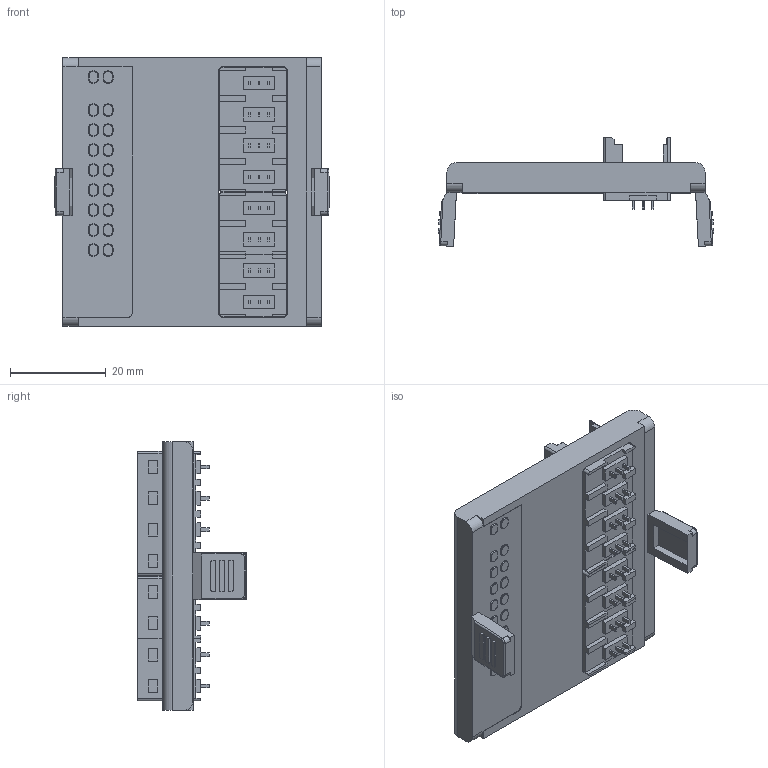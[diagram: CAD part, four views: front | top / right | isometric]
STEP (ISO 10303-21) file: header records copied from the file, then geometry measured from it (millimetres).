
FILE_DESCRIPTION(/* description */ (''),/* implementation_level */ '2;1');
FILE_NAME(/* name */ 'RS-ECON-单排IO.stp',/* time_stamp */ '2025-10-29T09:41:12+08:00',/* author */ (''),/* organization */ (''),/* preprocessor_version */ 'ST-DEVELOPER v16',/* originating_system */ 'SIEMENS PLM Software NX 10.0',/* authorisation */ '');
FILE_SCHEMA (('AUTOMOTIVE_DESIGN { 1 0 10303 214 3 1 1 1 }'));
Length unit declared in the file: millimetre
Products named in the file (1): chao8E5828D9vbov
Bounding box: 57.58 x 22.7 x 56.21 mm (x, y, z)
Volume: 18292 mm3; surface area: 16483.2 mm2
Topology: 5 solids, 5 shells, 1561 faces, 4033 edges, 2578 vertices
Faces by surface type: plane 1286, cone 144, cylinder 125, torus 4, bspline 2
Entity records: 47302 total; most frequent: CARTESIAN_POINT 8801, ORIENTED_EDGE 8066, DIRECTION 7661, EDGE_CURVE 4033, LINE 3361, VECTOR 3361, VERTEX_POINT 2578, AXIS2_PLACEMENT_3D 2150
